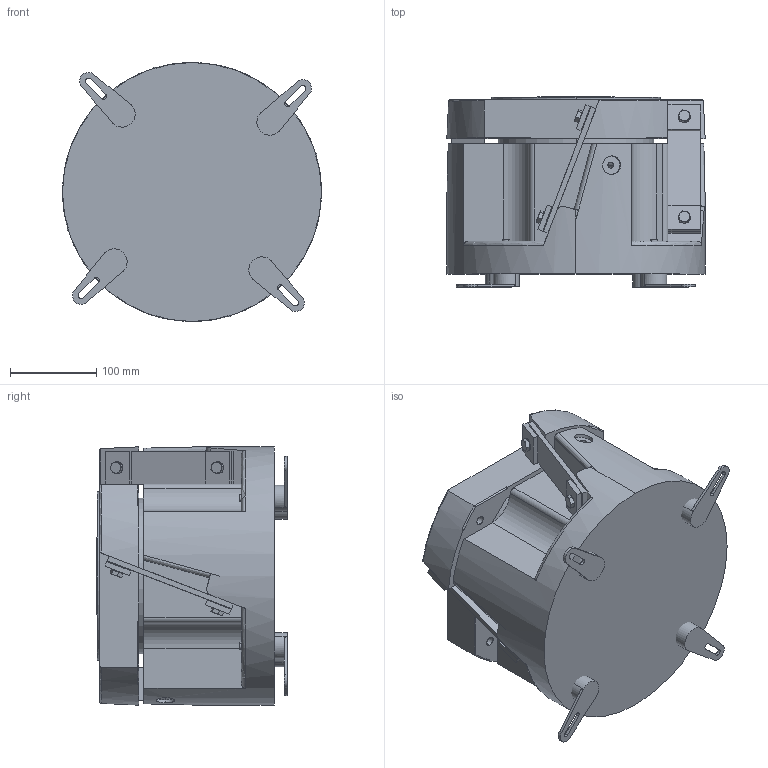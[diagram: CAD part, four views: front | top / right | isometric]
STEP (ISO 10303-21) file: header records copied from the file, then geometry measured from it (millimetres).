
FILE_DESCRIPTION (( 'STEP AP214' ), '1' );
FILE_NAME ('JM 300.STEP', '2022-04-21T04:18:49', ( '' ), ( '' ), 'SwSTEP 2.0', 'SolidWorks 2018', '' );
FILE_SCHEMA (( 'AUTOMOTIVE_DESIGN' ));
Length unit declared in the file: millimetre
Products named in the file (3): 30   華褐珨极; JM 300; JM300
Assembly tree (5 placements, depth 2):
  JM 300
    JM300
    30   華褐珨极  x4
Bounding box: 300 x 220.5 x 300 mm (x, y, z)
Volume: 10776045.7 mm3; surface area: 623198.3 mm2
Topology: 21 solids, 28 shells, 650 faces, 1582 edges, 1025 vertices
Faces by surface type: plane 357, cylinder 188, cone 80, torus 16, bspline 9
Entity records: 22170 total; most frequent: CARTESIAN_POINT 7591, ORIENTED_EDGE 2948, DIRECTION 2831, EDGE_CURVE 1474, AXIS2_PLACEMENT_3D 1045, VERTEX_POINT 953, VECTOR 741, LINE 741
